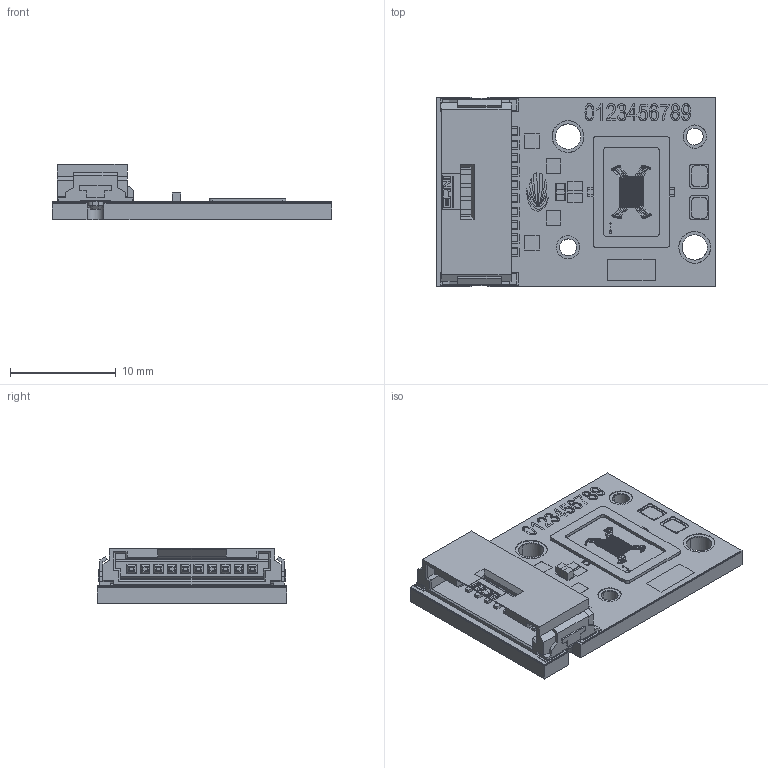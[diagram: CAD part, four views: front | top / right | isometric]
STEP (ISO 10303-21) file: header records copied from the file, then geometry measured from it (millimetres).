
FILE_DESCRIPTION(/* description */ (''),/* implementation_level */ '2;1');
FILE_NAME(/* name */ 'STEFFCF',/* time_stamp */ '2025-01-14T14:43:44+08:00',/* author */ (''),/* organization */ (''),/* preprocessor_version */ 'ST-DEVELOPER v16.5',/* originating_system */ '',/* authorisation */ '');
FILE_SCHEMA (('CONFIG_CONTROL_DESIGN'));
Length unit declared in the file: millimetre
Products named in the file (2): Document; 图块 01
Assembly tree (1 placements, depth 2):
  Document
    图块 01
Bounding box: 26.5 x 18 x 5.23 mm (x, y, z)
Volume: 1045.1 mm3; surface area: 1804.8 mm2
Topology: 24 solids, 24 shells, 1644 faces, 4139 edges, 2632 vertices
Faces by surface type: plane 945, bspline 380, cylinder 319
Entity records: 64868 total; most frequent: CARTESIAN_POINT 33532, ORIENTED_EDGE 8278, EDGE_CURVE 4139, B_SPLINE_CURVE_WITH_KNOTS 2889, VERTEX_POINT 2632, EDGE_LOOP 1787, ADVANCED_FACE 1644, FACE_OUTER_BOUND 1644
